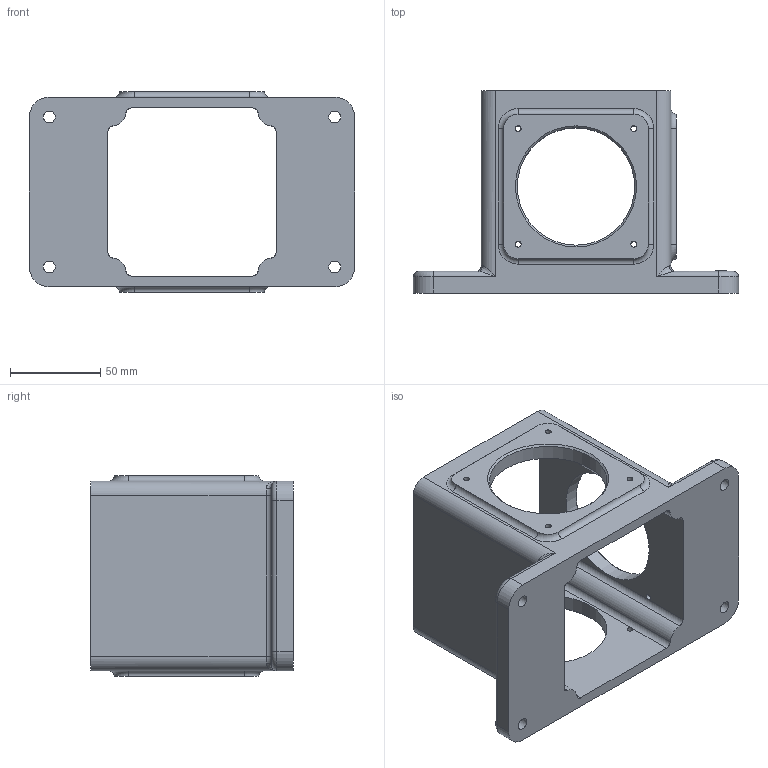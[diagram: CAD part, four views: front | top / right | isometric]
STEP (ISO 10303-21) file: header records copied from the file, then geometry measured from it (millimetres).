
FILE_DESCRIPTION(/* description */ (''),/* implementation_level */ '2;1');
FILE_NAME(/* name */ '',/* time_stamp */ '2024-08-02T13:15:10+09:00',/* author */ ('jhkim'),/* organization */ (''),/* preprocessor_version */ 'ST-DEVELOPER v20',/* originating_system */ 'Autodesk Inventor 2025',/* authorisation */ '');
FILE_SCHEMA (('AUTOMOTIVE_DESIGN { 1 0 10303 214 3 1 1 }'));
Length unit declared in the file: millimetre
Products named in the file (1): 본체
Bounding box: 180 x 112 x 111 mm (x, y, z)
Volume: 359042.6 mm3; surface area: 95718.5 mm2
Topology: 1 solids, 1 shells, 312 faces, 871 edges, 569 vertices
Faces by surface type: plane 138, bspline 80, cylinder 67, torus 20, cone 7
Full cylindrical faces by diameter (mm): 3.242 x16, 6.6 x4, 14 x4, 65 x3
Entity records: 10569 total; most frequent: CARTESIAN_POINT 2897, ORIENTED_EDGE 1726, DIRECTION 1326, EDGE_CURVE 863, VERTEX_POINT 569, LINE 510, VECTOR 510, AXIS2_PLACEMENT_3D 408
